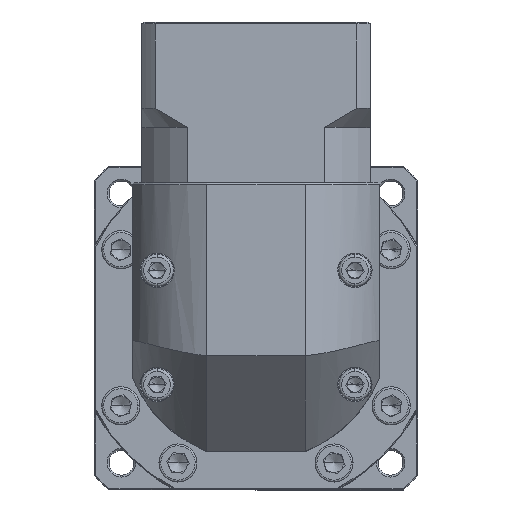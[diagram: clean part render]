
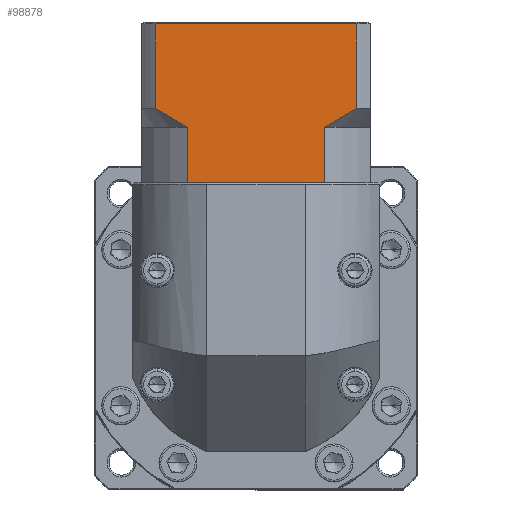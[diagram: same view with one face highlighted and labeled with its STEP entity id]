
A CAD part, top view. The second image highlights one B-rep face of the part: STEP entity #98878.
In plain terms, the highlighted planar face has unit normal (0, 0, 1).
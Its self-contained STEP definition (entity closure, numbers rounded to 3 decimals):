
#385 = CARTESIAN_POINT ( 'NONE',  ( -105.138, 88.029, 45.955 ) ) ;
#2006 = CARTESIAN_POINT ( 'NONE',  ( -95.717, 73.529, 45.955 ) ) ;
#4770 = CARTESIAN_POINT ( 'NONE',  ( -61.644, 73.529, 45.955 ) ) ;
#7722 = CARTESIAN_POINT ( 'NONE',  ( -57.771, 89.579, 45.955 ) ) ;
#8562 = CARTESIAN_POINT ( 'NONE',  ( -60.653, 88.029, 45.955 ) ) ;
#11008 = CARTESIAN_POINT ( 'NONE',  ( -108.681, 73.529, 45.955 ) ) ;
#13859 = CARTESIAN_POINT ( 'NONE',  ( -52.223, 115.229, 45.955 ) ) ;
#14064 = EDGE_CURVE ( 'NONE', #102256, #107841, #87143, .T. ) ;
#14299 = LINE ( 'NONE', #102866, #118375 ) ;
#14581 = CARTESIAN_POINT ( 'NONE',  ( -52.223, 93.029, 45.955 ) ) ;
#16201 = LINE ( 'NONE', #11008, #85497 ) ;
#16583 = DIRECTION ( 'NONE',  ( 1., 0., 0. ) ) ;
#17858 = CARTESIAN_POINT ( 'NONE',  ( -59.196, 88.779, 45.955 ) ) ;
#19594 = CARTESIAN_POINT ( 'NONE',  ( -108.681, 115.729, 45.955 ) ) ;
#20472 = DIRECTION ( 'NONE',  ( 0., 0., -1. ) ) ;
#22082 = LINE ( 'NONE', #79036, #37871 ) ;
#22495 = CARTESIAN_POINT ( 'NONE',  ( -105.138, 93.029, 45.955 ) ) ;
#24879 = DIRECTION ( 'NONE',  ( -1., 0., 0. ) ) ;
#26249 = EDGE_CURVE ( 'NONE', #30448, #113525, #22082, .T. ) ;
#26823 = CARTESIAN_POINT ( 'NONE',  ( -108.681, 73.529, 45.955 ) ) ;
#28895 = VECTOR ( 'NONE', #58942, 1000. ) ;
#28918 = EDGE_CURVE ( 'NONE', #50666, #113525, #62434, .T. ) ;
#29011 = EDGE_CURVE ( 'NONE', #102256, #33460, #110836, .T. ) ;
#29708 = ORIENTED_EDGE ( 'NONE', *, *, #28918, .T. ) ;
#29778 = CARTESIAN_POINT ( 'NONE',  ( -96.708, 88.029, 45.955 ) ) ;
#30448 = VERTEX_POINT ( 'NONE', #51073 ) ;
#31064 = CARTESIAN_POINT ( 'NONE',  ( -98.16, 88.776, 45.955 ) ) ;
#32599 = DIRECTION ( 'NONE',  ( 0., 1., 0. ) ) ;
#33219 = CARTESIAN_POINT ( 'NONE',  ( -52.223, 88.029, 45.955 ) ) ;
#33412 = ORIENTED_EDGE ( 'NONE', *, *, #56884, .T. ) ;
#33460 = VERTEX_POINT ( 'NONE', #88806 ) ;
#34252 = VERTEX_POINT ( 'NONE', #2006 ) ;
#36944 = LINE ( 'NONE', #33219, #46407 ) ;
#37871 = VECTOR ( 'NONE', #62651, 1000. ) ;
#39834 = PLANE ( 'NONE',  #103523 ) ;
#41633 = CARTESIAN_POINT ( 'NONE',  ( -103.778, 92.129, 45.955 ) ) ;
#42520 = DIRECTION ( 'NONE',  ( 0., 1., 0. ) ) ;
#43811 = CARTESIAN_POINT ( 'NONE',  ( -108.681, 115.229, 45.955 ) ) ;
#46407 = VECTOR ( 'NONE', #53880, 1000. ) ;
#50666 = VERTEX_POINT ( 'NONE', #4770 ) ;
#51073 = CARTESIAN_POINT ( 'NONE',  ( -60.653, 88.029, 45.955 ) ) ;
#53880 = DIRECTION ( 'NONE',  ( 0., -1., 0. ) ) ;
#55455 = CARTESIAN_POINT ( 'NONE',  ( -96.708, 73.529, 45.955 ) ) ;
#55652 = LINE ( 'NONE', #26823, #28895 ) ;
#56204 = CARTESIAN_POINT ( 'NONE',  ( -60.653, 73.529, 45.955 ) ) ;
#56884 = EDGE_CURVE ( 'NONE', #30448, #74913, #122082, .T. ) ;
#58942 = DIRECTION ( 'NONE',  ( 1., 0., 0. ) ) ;
#59712 = CARTESIAN_POINT ( 'NONE',  ( -105.138, 93.029, 45.955 ) ) ;
#60849 = DIRECTION ( 'NONE',  ( 1., 0., 0. ) ) ;
#62434 = LINE ( 'NONE', #126773, #94030 ) ;
#62651 = DIRECTION ( 'NONE',  ( 0., -1., 0. ) ) ;
#68325 = ORIENTED_EDGE ( 'NONE', *, *, #68665, .T. ) ;
#68486 = ORIENTED_EDGE ( 'NONE', *, *, #121759, .T. ) ;
#68534 = CARTESIAN_POINT ( 'NONE',  ( -52.223, 93.029, 45.955 ) ) ;
#68665 = EDGE_CURVE ( 'NONE', #130132, #34252, #55652, .T. ) ;
#71133 = CARTESIAN_POINT ( 'NONE',  ( -102.4, 91.256, 45.955 ) ) ;
#71580 = CARTESIAN_POINT ( 'NONE',  ( -99.592, 89.58, 45.955 ) ) ;
#74913 = VERTEX_POINT ( 'NONE', #14581 ) ;
#76571 = VERTEX_POINT ( 'NONE', #13859 ) ;
#79036 = CARTESIAN_POINT ( 'NONE',  ( -60.653, 88.029, 45.955 ) ) ;
#85497 = VECTOR ( 'NONE', #60849, 1000. ) ;
#86030 = ORIENTED_EDGE ( 'NONE', *, *, #93595, .F. ) ;
#87143 = LINE ( 'NONE', #385, #101298 ) ;
#88806 = CARTESIAN_POINT ( 'NONE',  ( -96.708, 88.029, 45.955 ) ) ;
#93595 = EDGE_CURVE ( 'NONE', #76571, #74913, #36944, .T. ) ;
#94030 = VECTOR ( 'NONE', #16583, 1000. ) ;
#94373 = EDGE_CURVE ( 'NONE', #34252, #50666, #16201, .T. ) ;
#94500 = ORIENTED_EDGE ( 'NONE', *, *, #29011, .T. ) ;
#98878 = ADVANCED_FACE ( 'NONE', ( #116536 ), #39834, .F. ) ;
#98935 = CARTESIAN_POINT ( 'NONE',  ( -53.586, 92.127, 45.955 ) ) ;
#99526 = CARTESIAN_POINT ( 'NONE',  ( -105.138, 115.229, 45.955 ) ) ;
#101298 = VECTOR ( 'NONE', #32599, 1000. ) ;
#101532 = ORIENTED_EDGE ( 'NONE', *, *, #123140, .F. ) ;
#101669 = VECTOR ( 'NONE', #24879, 1000. ) ;
#101976 = DIRECTION ( 'NONE',  ( 0., 1., 0. ) ) ;
#102256 = VERTEX_POINT ( 'NONE', #22495 ) ;
#102866 = CARTESIAN_POINT ( 'NONE',  ( -96.708, 88.029, 45.955 ) ) ;
#103523 = AXIS2_PLACEMENT_3D ( 'NONE', #19594, #20472, #101976 ) ;
#106132 = ORIENTED_EDGE ( 'NONE', *, *, #26249, .F. ) ;
#107841 = VERTEX_POINT ( 'NONE', #99526 ) ;
#110836 = B_SPLINE_CURVE_WITH_KNOTS ( 'NONE', 3,
 ( #59712, #41633, #71133, #71580, #31064, #29778 ),
 .UNSPECIFIED., .F., .F.,
 ( 4, 2, 4 ),
 ( 0.052, 0.057, 0.062 ),
 .UNSPECIFIED. ) ;
#111464 = ORIENTED_EDGE ( 'NONE', *, *, #94373, .T. ) ;
#113525 = VERTEX_POINT ( 'NONE', #56204 ) ;
#116536 = FACE_OUTER_BOUND ( 'NONE', #126734, .T. ) ;
#117459 = LINE ( 'NONE', #43811, #101669 ) ;
#118375 = VECTOR ( 'NONE', #42520, 1000. ) ;
#119628 = CARTESIAN_POINT ( 'NONE',  ( -54.966, 91.253, 45.955 ) ) ;
#121759 = EDGE_CURVE ( 'NONE', #76571, #107841, #117459, .T. ) ;
#122082 = B_SPLINE_CURVE_WITH_KNOTS ( 'NONE', 3,
 ( #8562, #17858, #7722, #119628, #98935, #68534 ),
 .UNSPECIFIED., .F., .F.,
 ( 4, 2, 4 ),
 ( 0.1, 0.104, 0.109 ),
 .UNSPECIFIED. ) ;
#123140 = EDGE_CURVE ( 'NONE', #130132, #33460, #14299, .T. ) ;
#126734 = EDGE_LOOP ( 'NONE', ( #86030, #68486, #129643, #94500, #101532, #68325, #111464, #29708, #106132, #33412 ) ) ;
#126773 = CARTESIAN_POINT ( 'NONE',  ( -108.681, 73.529, 45.955 ) ) ;
#129643 = ORIENTED_EDGE ( 'NONE', *, *, #14064, .F. ) ;
#130132 = VERTEX_POINT ( 'NONE', #55455 ) ;
